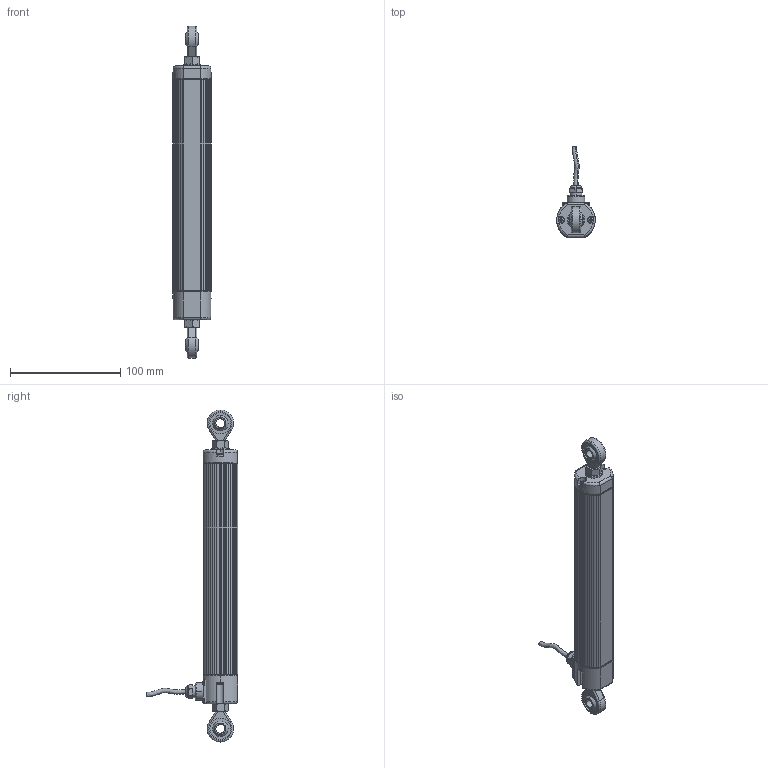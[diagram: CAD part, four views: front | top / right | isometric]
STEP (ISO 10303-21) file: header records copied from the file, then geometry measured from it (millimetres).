
FILE_DESCRIPTION (( 'STEP AP203' ), '1' );
FILE_NAME ('PC-F-0100.STEP', '2016-07-01T08:14:14', ( '' ), ( '' ), 'SwSTEP 2.0', 'SolidWorks 2015', '' );
FILE_SCHEMA (( 'CONFIG_CONTROL_DESIGN' ));
Length unit declared in the file: millimetre
Products named in the file (18): SND008-2X; MIM862X_MIM862; SND008-1X; MIM828X_ISO 7045 - M2.5 x 8 - Z --- 8S; SND008X; MIM497X_Washer ISO 7089 - 8; CUS544X; TES096-1; ALB213X; PRE070; TES058X; TES096X; GUA015X; PCF cavoX; GUA012X; PC-F-0100; MIM208X_Hexagon Nut ISO - 4032 - M8 - D - S; TES055X
Assembly tree (25 placements, depth 3):
  PC-F-0100
    CUS544X
    ALB213X
    TES058X
    GUA015X
    GUA012X
    TES055X
    MIM862X_MIM862  x4
    MIM828X_ISO 7045 - M2.5 x 8 - Z --- 8S  x4
    MIM497X_Washer ISO 7089 - 8
    MIM208X_Hexagon Nut ISO - 4032 - M8 - D - S  x2
    SND008X  x2
      SND008-2X
      SND008-1X
    TES096X
      TES096-1
      PRE070
    PCF cavoX
Bounding box: 35 x 82.8 x 301.5 mm (x, y, z)
Volume: 232085.5 mm3; surface area: 58477.9 mm2
Topology: 24 solids, 24 shells, 2149 faces, 5536 edges, 3430 vertices
Faces by surface type: cone 1060, cylinder 647, plane 350, torus 58, sphere 24, bspline 10
Entity records: 30894 total; most frequent: CARTESIAN_POINT 5949, DIRECTION 5290, ORIENTED_EDGE 4604, EDGE_CURVE 2302, AXIS2_PLACEMENT_3D 2152, VERTEX_POINT 1449, CIRCLE 1228, LINE 986
